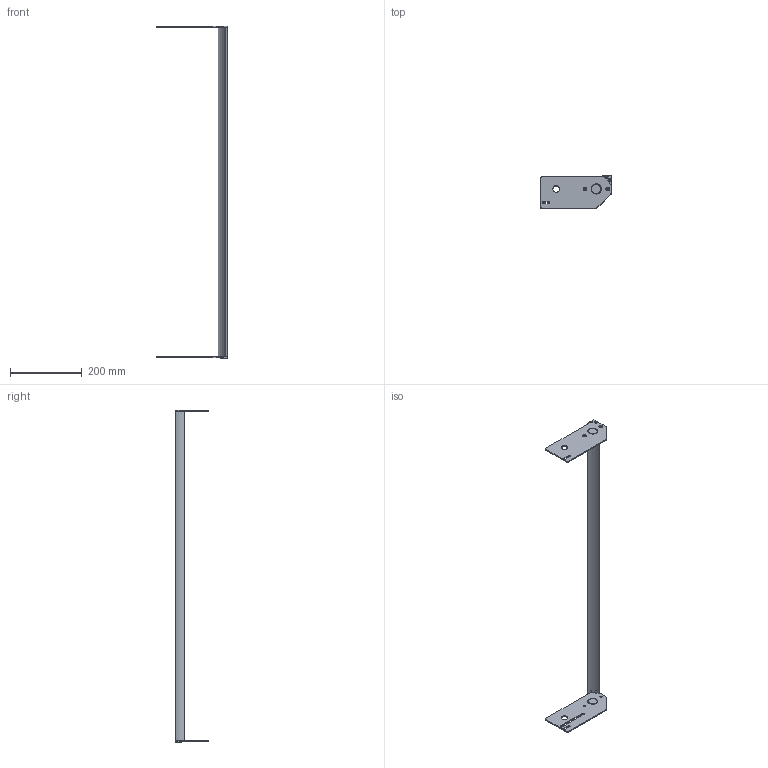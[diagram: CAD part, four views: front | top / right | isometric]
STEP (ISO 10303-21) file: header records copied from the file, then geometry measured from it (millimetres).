
FILE_DESCRIPTION((''),'2;1');
FILE_NAME('27M3301-30_ASM','2018-03-06T',('james.horst'),(''),'PRO/ENGINEER BY PARAMETRIC TECHNOLOGY CORPORATION, 2012420','PRO/ENGINEER BY PARAMETRIC TECHNOLOGY CORPORATION, 2012420','');
FILE_SCHEMA(('CONFIG_CONTROL_DESIGN'));
Length unit declared in the file: inch
Products named in the file (6): 350539-36; 350538; 350537; 9304XXM_930410M; 351040-30_ASM; 27M3301-30_ASM
Assembly tree (8 placements, depth 3):
  27M3301-30_ASM
    351040-30_ASM
      350539-36
      350538
      350537
      9304XXM_930410M  x4
Bounding box: 196.06 x 92.74 x 926.74 mm (x, y, z)
Volume: 359082 mm3; surface area: 171945.9 mm2
Topology: 7 solids, 11 shells, 227 faces, 565 edges, 356 vertices
Faces by surface type: cylinder 87, plane 80, cone 60
Entity records: 5334 total; most frequent: CARTESIAN_POINT 968, DIRECTION 962, ORIENTED_EDGE 832, EDGE_CURVE 424, AXIS2_PLACEMENT_3D 374, VERTEX_POINT 278, VECTOR 214, LINE 214
